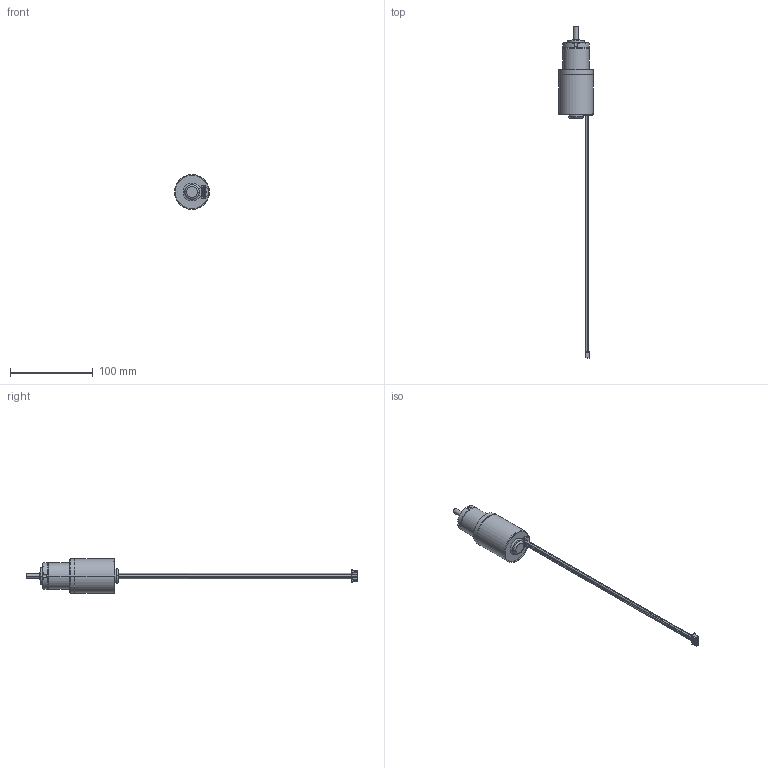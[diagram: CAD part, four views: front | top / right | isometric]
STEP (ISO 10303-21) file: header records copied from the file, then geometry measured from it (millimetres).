
FILE_DESCRIPTION((''),'2;1');
FILE_NAME('BB_S_ASM','2024-01-16T15:11:37',('Danny.Guo'),(''),'CREO PARAMETRIC BY PTC INC, 2020414','CREO PARAMETRIC BY PTC INC, 2020414','');
FILE_SCHEMA(('CONFIG_CONTROL_DESIGN'));
Length unit declared in the file: millimetre
Products named in the file (3): BB_S; XHP-5_1; BB_S_ASM
Assembly tree (2 placements, depth 2):
  BB_S_ASM
    BB_S
    XHP-5_1
Bounding box: 42 x 401.68 x 42 mm (x, y, z)
Volume: 106835.2 mm3; surface area: 26663.6 mm2
Topology: 2 solids, 6 shells, 286 faces, 704 edges, 458 vertices
Faces by surface type: plane 165, cylinder 88, cone 30, torus 3
Entity records: 8548 total; most frequent: CARTESIAN_POINT 1530, DIRECTION 1496, ORIENTED_EDGE 1376, EDGE_CURVE 696, AXIS2_PLACEMENT_3D 521, VERTEX_POINT 458, VECTOR 454, LINE 454
